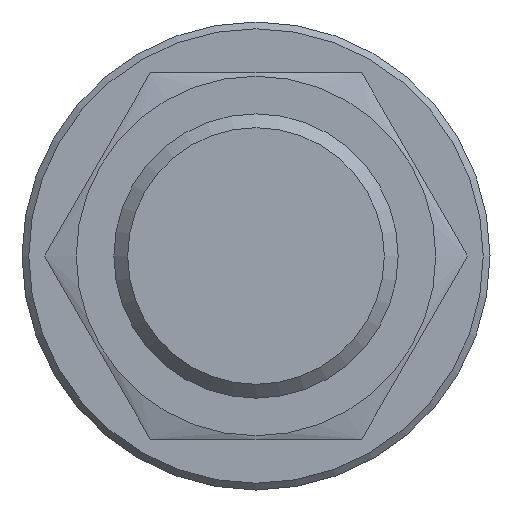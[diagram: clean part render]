
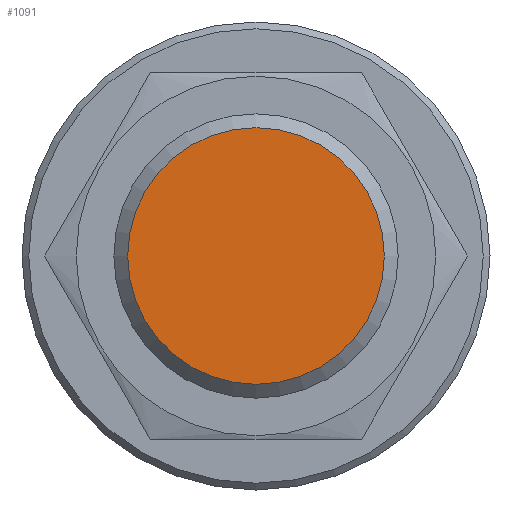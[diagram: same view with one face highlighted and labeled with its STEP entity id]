
A CAD part, left-side view. The second image highlights one B-rep face of the part: STEP entity #1091.
In plain terms, the highlighted planar face has unit normal (-1, 0, 0).
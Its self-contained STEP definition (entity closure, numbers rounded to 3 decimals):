
#256=FACE_OUTER_BOUND('',#404,.T.);
#404=EDGE_LOOP('',(#870));
#492=CIRCLE('',#1255,9.458);
#574=VERTEX_POINT('',#1932);
#676=EDGE_CURVE('',#574,#574,#492,.T.);
#870=ORIENTED_EDGE('',*,*,#676,.F.);
#930=PLANE('',#1257);
#1091=ADVANCED_FACE('',(#256),#930,.T.);
#1255=AXIS2_PLACEMENT_3D('',#1933,#1565,#1566);
#1257=AXIS2_PLACEMENT_3D('',#1936,#1569,#1570);
#1565=DIRECTION('center_axis',(1.,0.,0.));
#1566=DIRECTION('ref_axis',(0.,-1.,0.));
#1569=DIRECTION('center_axis',(-1.,0.,0.));
#1570=DIRECTION('ref_axis',(0.,0.,1.));
#1932=CARTESIAN_POINT('',(0.,9.458,0.));
#1933=CARTESIAN_POINT('Origin',(0.,0.,0.));
#1936=CARTESIAN_POINT('Origin',(0.,6.064,0.));
